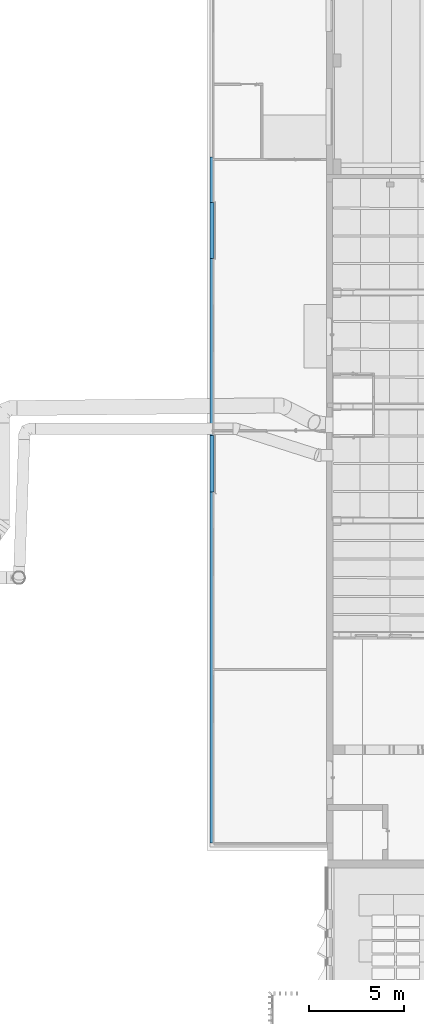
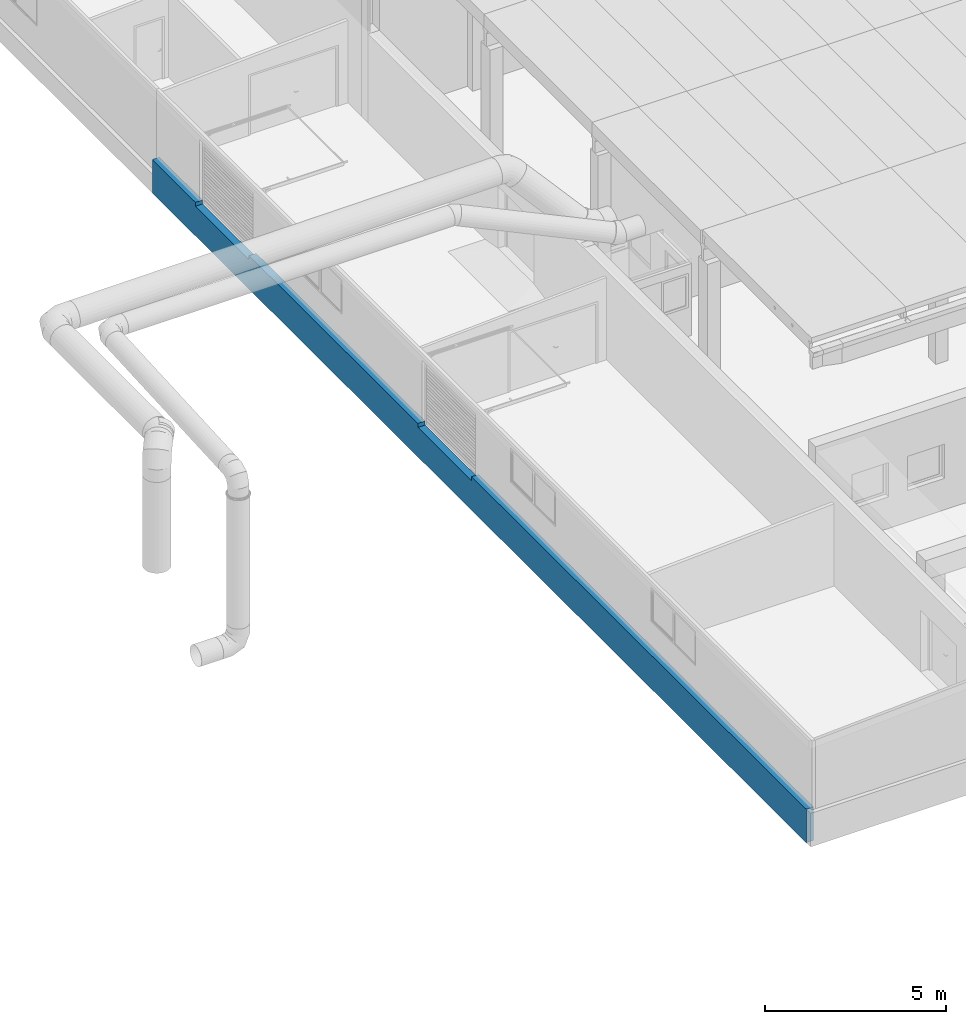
# One storey, part 118 of 301: 1 wall, 2 openings.
"""IFC2X3 building model written with IfcOpenShell, lengths in millimetres."""

from ifc_helpers import new_model, entity, si_unit, converted_unit, derived_unit, money_unit, direction, frame, origin_with_axes, place, context, subcontext, project, spatial, faceted_brep, material, type_object, element, save


model = new_model("IFC2X3")

# Units and contexts
model_context = context("Model", 3, precision=0.01, world=origin_with_axes(), true_north=direction((0.0, 1.0)))
body_context = subcontext(model_context, "Body", "Model", "MODEL_VIEW")
ifc_project = project(units=[si_unit("LENGTHUNIT", "METRE", prefix="MILLI"), si_unit("AREAUNIT", "SQUARE_METRE"), si_unit("VOLUMEUNIT", "CUBIC_METRE"), converted_unit("PLANEANGLEUNIT", "DEGREE", entity("IfcPlaneAngleMeasure", 0.0174532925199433), si_unit("PLANEANGLEUNIT", "RADIAN"), dimensions=[0, 0, 0, 0, 0, 0, 0]), money_unit("EUR"), converted_unit("TIMEUNIT", "Year", entity("IfcTimeMeasure", 31557600.0), si_unit("TIMEUNIT", "SECOND"), dimensions=[0, 0, 1, 0, 0, 0, 0]), si_unit("MASSUNIT", "GRAM", prefix="KILO"), si_unit("THERMODYNAMICTEMPERATUREUNIT", "DEGREE_CELSIUS"), si_unit("LUMINOUSINTENSITYUNIT", "LUMEN"), si_unit("ENERGYUNIT", "JOULE", prefix="MEGA"), derived_unit("THERMALCONDUCTANCEUNIT", [(si_unit("POWERUNIT", "WATT"), 1), (si_unit("LENGTHUNIT", "METRE"), -1), (si_unit("THERMODYNAMICTEMPERATUREUNIT", "KELVIN"), -1)]), derived_unit("SPECIFICHEATCAPACITYUNIT", [(si_unit("ENERGYUNIT", "JOULE"), 1), (si_unit("MASSUNIT", "GRAM", prefix="KILO"), -1), (si_unit("THERMODYNAMICTEMPERATUREUNIT", "KELVIN"), -1)]), derived_unit("MASSDENSITYUNIT", [(si_unit("MASSUNIT", "GRAM", prefix="KILO"), 1), (si_unit("VOLUMEUNIT", "CUBIC_METRE"), -1)])], contexts=[model_context])

# Site, building, storey
site_placement = place(None, frame((0.0, 0.0, 8650.0), z_axis=(0.0, 0.0, 1.0), x_axis=(1.0, 0.0, 0.0)))
site = spatial("IfcSite", under=ifc_project, at=site_placement, Name="43301:001:0844", CompositionType="ELEMENT")
building_placement = place(site_placement, origin_with_axes())
building = spatial("IfcBuilding", under=site, at=building_placement, Name="Kuressaare Ametikooli tuulikute mehaanikute õppekorpus", CompositionType="ELEMENT")
storey_placement = place(building_placement, origin_with_axes())
storey = spatial("IfcBuildingStorey", under=building, at=storey_placement, Name="1.korrus", CompositionType="ELEMENT", Elevation=0.0)

# Wall, openings
ifc_material = material(Name="GENEERILINE - KONSTRUKTRIOON")
wall_type = type_object("IfcWallType", Name="GENEERILINE - KONSTRUKTRIOON 230", PredefinedType="NOTDEFINED")
wall_placement = place(storey_placement, frame((81761.88862698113, 63236.26327514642, -1000.0), z_axis=(0.0, 0.0, 1.0), x_axis=(0.0, -1.0, 0.0)))
wall = element("IfcWall", 1, at=wall_placement, inside=storey, type_object=wall_type, material=ifc_material, Name="VS-XX", context=body_context, shape_type="Brep", body=[
    faceted_brep([(0.0, 0.0, 1130.0), (2387.920379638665, 0.0, 1130.0), (2387.920379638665, 230.000000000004, 1130.0), (0.0, 230.000000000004, 1130.0), (5347.920379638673, 0.0, 1000.0), (2387.920379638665, 0.0, 1000.0), (0.0, 0.0, 0.0), (36137.35618591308, 0.0, 0.0), (36137.35618591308, 0.0, 1130.0), (17639.43948142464, 0.0, 1130.0), (17639.43948142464, 0.0, 1000.0), (14679.43948142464, 0.0, 1000.0), (14679.43948142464, 0.0, 1130.0), (5347.920379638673, 0.0, 1130.0), (2387.920379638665, 229.9999999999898, 1000.0), (5347.920379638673, 229.9999999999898, 1000.0), (5347.920379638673, 230.000000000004, 1130.0), (14679.43948142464, 230.000000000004, 1130.0), (14679.43948142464, 229.9999999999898, 1000.0), (17639.43948142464, 229.9999999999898, 1000.0), (17639.43948142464, 230.000000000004, 1130.0), (36137.35618591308, 229.9999999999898, 1130.0), (36137.35618591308, 229.9999999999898, 0.0), (0.0, 230.000000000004, 0.0)], [[[0, 1, 2, 3]], [[4, 5, 1, 0, 6, 7, 8, 9, 10, 11, 12, 13]], [[5, 14, 2, 1]], [[14, 15, 16, 17, 18, 19, 20, 21, 22, 23, 3, 2]], [[0, 3, 23, 6]], [[4, 15, 14, 5]], [[22, 7, 6, 23]], [[22, 21, 8, 7]], [[21, 20, 9, 8]], [[10, 9, 20, 19]], [[10, 19, 18, 11]], [[11, 18, 17, 12]], [[17, 16, 13, 12]], [[4, 13, 16, 15]]]),
])
opening_1_placement = place(wall_placement, frame((63236.26327514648, -81761.88862698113, 1000.0), z_axis=(0.0, 0.0, 1.0), x_axis=(0.0, 1.0, 0.0)))
element("IfcOpeningElement", 2, at=opening_1_placement, cuts=wall, Name="ava", context=body_context, shape_type="Brep", body=[
    faceted_brep([(81531.88862698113, 48556.82379372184, 0.0), (81531.88862698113, 48556.82379372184, 129.9999999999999), (82221.88862698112, 48556.82379372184, 129.9999999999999), (82221.88862698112, 48556.82379372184, 0.0), (81531.88862698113, 45596.82379372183, 0.0), (81531.88862698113, 45596.82379372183, 129.9999999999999), (82221.88862698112, 45596.82379372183, 129.9999999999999), (82221.88862698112, 45596.82379372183, 0.0)], [[[0, 1, 2, 3]], [[0, 4, 5, 1]], [[1, 5, 6, 2]], [[3, 2, 6, 7]], [[4, 0, 3, 7]], [[5, 4, 7, 6]]]),
])
opening_2_placement = place(wall_placement, frame((63236.26327514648, -81761.88862698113, 1000.0), z_axis=(0.0, 0.0, 1.0), x_axis=(0.0, 1.0, 0.0)))
element("IfcOpeningElement", 3, at=opening_2_placement, cuts=wall, Name="ava", context=body_context, shape_type="Brep", body=[
    faceted_brep([(81531.88862698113, 60848.34289550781, 0.0), (81531.88862698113, 60848.34289550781, 129.9999999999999), (82221.88862698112, 60848.34289550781, 129.9999999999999), (82221.88862698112, 60848.34289550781, 0.0), (81531.88862698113, 57888.34289550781, 0.0), (81531.88862698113, 57888.34289550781, 129.9999999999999), (82221.88862698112, 57888.34289550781, 129.9999999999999), (82221.88862698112, 57888.34289550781, 0.0)], [[[0, 1, 2, 3]], [[0, 4, 5, 1]], [[1, 5, 6, 2]], [[3, 2, 6, 7]], [[4, 0, 3, 7]], [[5, 4, 7, 6]]]),
])

save(model, "model.ifc")
